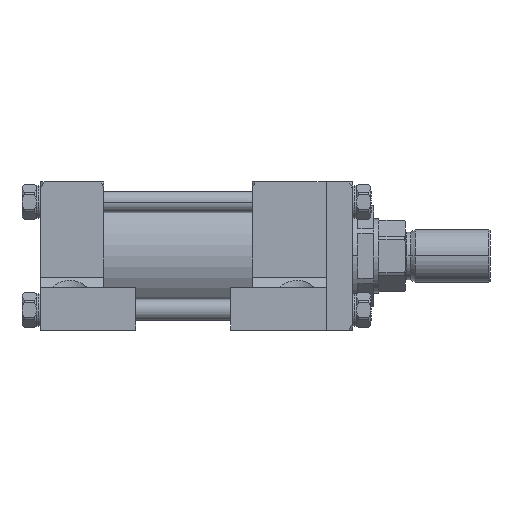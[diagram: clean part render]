
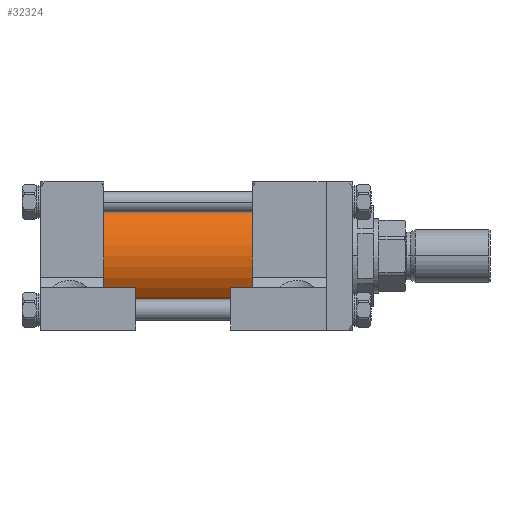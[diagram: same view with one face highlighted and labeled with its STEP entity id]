
A CAD part, front view. The second image highlights one B-rep face of the part: STEP entity #32324.
In plain terms, the highlighted cylindrical face has radius 38.1 mm (diameter 76.2 mm), a partial arc.
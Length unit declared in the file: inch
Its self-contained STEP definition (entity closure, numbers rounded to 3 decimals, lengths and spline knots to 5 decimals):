
#1506 = FACE_OUTER_BOUND ( 'NONE', #35657, .T. ) ;
#1566 = DIRECTION ( 'NONE',  ( 1., 0., 0. ) ) ;
#4245 = CIRCLE ( 'NONE', #18322, 1.5 ) ;
#4701 = CARTESIAN_POINT ( 'NONE',  ( -3.375, 0., 1.5 ) ) ;
#5138 = ORIENTED_EDGE ( 'NONE', *, *, #28212, .T. ) ;
#7073 = DIRECTION ( 'NONE',  ( 0., 1., 0. ) ) ;
#9930 = LINE ( 'NONE', #58590, #60220 ) ;
#10406 = DIRECTION ( 'NONE',  ( 0., 0., -1. ) ) ;
#11109 = CARTESIAN_POINT ( 'NONE',  ( -7.375, 0., 0. ) ) ;
#11260 = CARTESIAN_POINT ( 'NONE',  ( -7.375, 0., -1.5 ) ) ;
#14086 = AXIS2_PLACEMENT_3D ( 'NONE', #50181, #15745, #10406 ) ;
#15745 = DIRECTION ( 'NONE',  ( 1., 0., 0. ) ) ;
#16195 = CARTESIAN_POINT ( 'NONE',  ( -3.375, 0., -1.5 ) ) ;
#16903 = EDGE_CURVE ( 'NONE', #54837, #19073, #9930, .T. ) ;
#17411 = DIRECTION ( 'NONE',  ( 1., 0., 0. ) ) ;
#18322 = AXIS2_PLACEMENT_3D ( 'NONE', #11109, #1566, #25571 ) ;
#19073 = VERTEX_POINT ( 'NONE', #4701 ) ;
#21597 = ORIENTED_EDGE ( 'NONE', *, *, #36742, .F. ) ;
#22160 = CARTESIAN_POINT ( 'NONE',  ( -3.375, 0., 0. ) ) ;
#23168 = VERTEX_POINT ( 'NONE', #11260 ) ;
#25571 = DIRECTION ( 'NONE',  ( 0., 1., 0. ) ) ;
#27929 = ORIENTED_EDGE ( 'NONE', *, *, #16903, .F. ) ;
#28212 = EDGE_CURVE ( 'NONE', #23168, #39198, #35417, .T. ) ;
#29783 = DIRECTION ( 'NONE',  ( 1., 0., 0. ) ) ;
#30766 = CIRCLE ( 'NONE', #35884, 1.5 ) ;
#31109 = EDGE_CURVE ( 'NONE', #54837, #23168, #4245, .T. ) ;
#32324 = ADVANCED_FACE ( 'NONE', ( #1506 ), #59075, .T. ) ;
#34806 = DIRECTION ( 'NONE',  ( 1., 0., 0. ) ) ;
#35112 = CARTESIAN_POINT ( 'NONE',  ( -7.375, 0., -1.5 ) ) ;
#35417 = LINE ( 'NONE', #35112, #50684 ) ;
#35657 = EDGE_LOOP ( 'NONE', ( #27929, #54293, #5138, #21597 ) ) ;
#35884 = AXIS2_PLACEMENT_3D ( 'NONE', #22160, #17411, #7073 ) ;
#36742 = EDGE_CURVE ( 'NONE', #19073, #39198, #30766, .T. ) ;
#39198 = VERTEX_POINT ( 'NONE', #16195 ) ;
#41859 = CARTESIAN_POINT ( 'NONE',  ( -7.375, 0., 1.5 ) ) ;
#50181 = CARTESIAN_POINT ( 'NONE',  ( -7.375, 0., 0. ) ) ;
#50684 = VECTOR ( 'NONE', #34806, 39.37008 ) ;
#54293 = ORIENTED_EDGE ( 'NONE', *, *, #31109, .T. ) ;
#54837 = VERTEX_POINT ( 'NONE', #41859 ) ;
#58590 = CARTESIAN_POINT ( 'NONE',  ( -7.375, 0., 1.5 ) ) ;
#59075 = CYLINDRICAL_SURFACE ( 'NONE', #14086, 1.5 ) ;
#60220 = VECTOR ( 'NONE', #29783, 39.37008 ) ;
